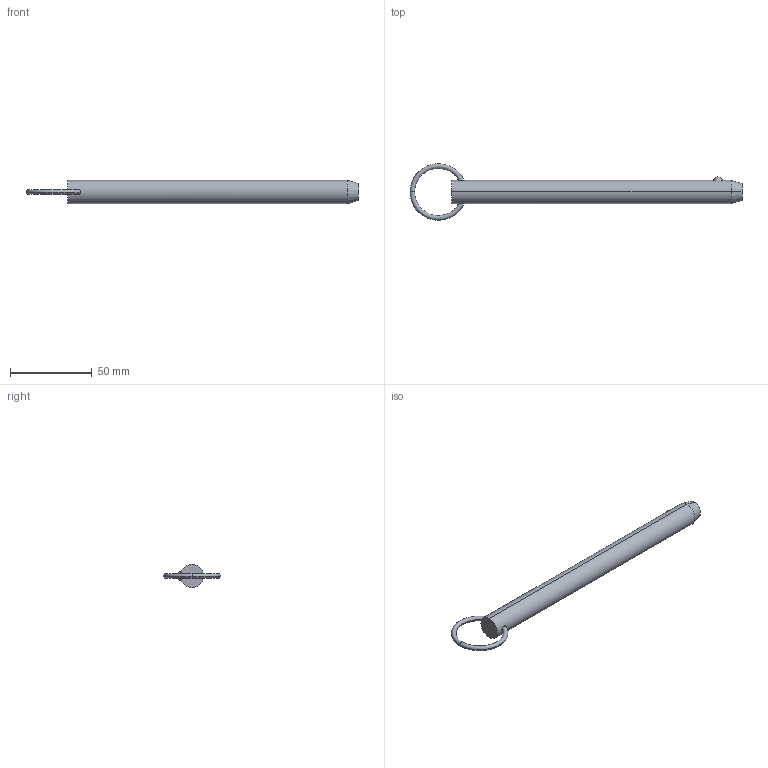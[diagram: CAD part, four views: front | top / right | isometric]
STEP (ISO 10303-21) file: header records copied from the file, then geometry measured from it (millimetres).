
FILE_DESCRIPTION (( 'STEP AP203' ), '1' );
FILE_NAME ('33010.W5660.step', '2024-11-01T10:40:59', ( '' ), ( '' ), 'SwSTEP 2.0', 'SolidWorks 2019', '' );
FILE_SCHEMA (( 'CONFIG_CONTROL_DESIGN' ));
Length unit declared in the file: millimetre
Products named in the file (3): Part2_33010.W5660; Part1_33010.W5660; 33010.W5660
Assembly tree (2 placements, depth 2):
  33010.W5660
    Part1_33010.W5660
    Part2_33010.W5660
Bounding box: 203.3 x 34.59 x 14.22 mm (x, y, z)
Volume: 28511.6 mm3; surface area: 9210 mm2
Topology: 2 solids, 2 shells, 16 faces, 31 edges, 18 vertices
Faces by surface type: torus 8, sphere 2, cone 2, cylinder 2, plane 2
Entity records: 875 total; most frequent: CARTESIAN_POINT 232, DIRECTION 88, ORIENTED_EDGE 62, AXIS2_PLACEMENT_3D 42, EDGE_CURVE 31, PERSON_AND_ORGANIZATION 26, CIRCLE 21, COORDINATED_UNIVERSAL_TIME_OFFSET 19
